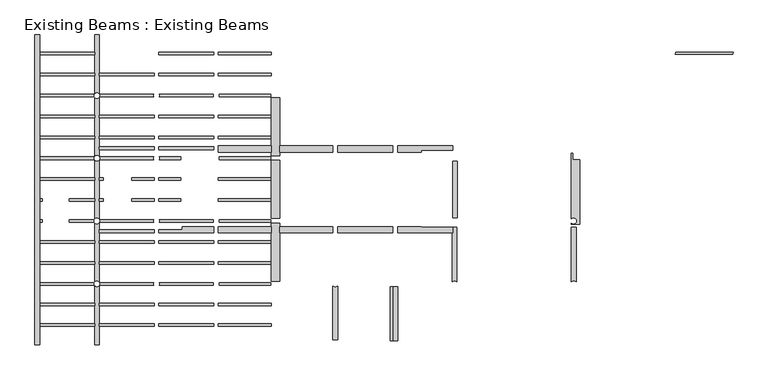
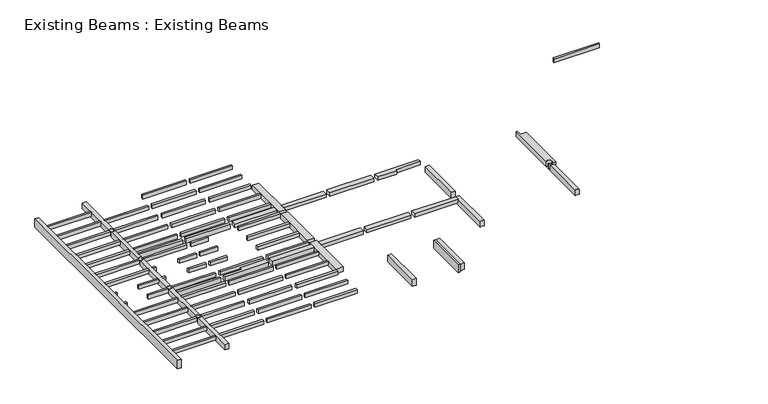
"""IFC4 building model written with IfcOpenShell, lengths in millimetres: beam geometry, Existing Beams : Existing Beams."""

from ifc_helpers import new_model, si_unit, point, frame, frame_2d, origin, place, context, project, spatial, polyline, circle_curve, trimmed, segment, composite_curve, outline, extrude, source, transform, mapped, element, save


def existing_beams_existing_beams_2622cb17(model_context):
    return source(origin(), model_context, "Body", "SweptSolid", [
        extrude(outline(polyline([(-14684.2509089, 98752.5091334), (-14684.2509089, 98142.9091334), (-19757.9009089, 98142.9091334), (-19757.9009089, 98752.5091334), (-14684.2509089, 98752.5091334)])), frame((0.0, 0.0, 3225.8), z_axis=(0.0, 0.0, 1.0), x_axis=(1.0, 0.0, 0.0)), (0.0, 0.0, 1.0), 431.8),
        extrude(outline(polyline([(-8927.2028695, 98752.5091334), (-8927.2028695, 98142.9091334), (-14227.0509089, 98142.9091334), (-14227.0509089, 98752.5091334), (-8927.2028695, 98752.5091334)])), frame((0.0, 0.0, 3225.8), z_axis=(0.0, 0.0, 1.0), x_axis=(1.0, 0.0, 0.0)), (0.0, 0.0, 1.0), 431.8),
        extrude(outline(polyline([(-6190.3528695, 98752.5091334), (-6190.3528695, 98674.6320808), (-3212.2028695, 98674.6320808), (-3212.2028695, 98142.9091334), (-8470.0028695, 98142.9091334), (-8470.0028695, 98752.5091334), (-6190.3528695, 98752.5091334)])), frame((0.0, 0.0, 3225.8), z_axis=(0.0, 0.0, 1.0), x_axis=(1.0, 0.0, 0.0)), (0.0, 0.0, 1.0), 431.8),
        extrude(outline(polyline([(-14684.2509089, 105878.5126019), (-19757.9009089, 105878.5126019), (-19757.9009089, 106488.1126019), (-14684.2509089, 106488.1126019), (-14684.2509089, 105878.5126019)])), frame((0.0, 0.0, 3225.8), z_axis=(0.0, 0.0, 1.0), x_axis=(1.0, 0.0, 0.0)), (0.0, 0.0, 1.0), 431.8),
        extrude(outline(polyline([(-8927.2028695, 105878.5126019), (-14227.0509089, 105878.5126019), (-14227.0509089, 106488.1126019), (-8927.2028695, 106488.1126019), (-8927.2028695, 105878.5126019)])), frame((0.0, 0.0, 3225.8), z_axis=(0.0, 0.0, 1.0), x_axis=(1.0, 0.0, 0.0)), (0.0, 0.0, 1.0), 431.8),
        extrude(outline(polyline([(-6190.3528695, 105878.5126019), (-8470.0028695, 105878.5126019), (-8470.0028695, 106488.1126019), (-3212.2028695, 106488.1126019), (-3212.2028695, 106091.4320808), (-6190.3528695, 106091.4320808), (-6190.3528695, 105878.5126019)])), frame((0.0, 0.0, 3225.8), z_axis=(0.0, 0.0, 1.0), x_axis=(1.0, 0.0, 0.0)), (0.0, 0.0, 1.0), 431.8),
        extrude(outline(polyline([(-20583.4009089, 105878.5126019), (-25657.0509089, 105878.5126019), (-25657.0509089, 106488.1126019), (-20583.4009089, 106488.1126019), (-20583.4009089, 105878.5126019)])), frame((0.0, 0.0, 3225.8), z_axis=(0.0, 0.0, 1.0), x_axis=(1.0, 0.0, 0.0)), (0.0, 0.0, 1.0), 431.8),
        extrude(outline(polyline([(-25657.0509089, 98142.9091334), (-25657.0509089, 98752.5091334), (-20583.4009089, 98752.5091334), (-20583.4009089, 98142.9091334), (-25657.0509089, 98142.9091334)])), frame((0.0, 0.0, 3073.4), z_axis=(0.0, 0.0, 1.0), x_axis=(1.0, 0.0, 0.0)), (0.0, 0.0, 1.0), 584.2),
        extrude(outline(polyline([(-31829.2509089, 106112.1591334), (-37087.0509089, 106112.1591334), (-37087.0509089, 106416.9591334), (-31829.2509089, 106416.9591334), (-31829.2509089, 106112.1591334)])), frame((0.0, 0.0, 3073.4), z_axis=(0.0, 0.0, 1.0), x_axis=(1.0, 0.0, 0.0)), (0.0, 0.0, 1.0), 584.2),
        extrude(outline(polyline([(-26114.2509089, 106112.1591334), (-31372.0509089, 106112.1591334), (-31372.0509089, 106416.9591334), (-26114.2509089, 106416.9591334), (-26114.2509089, 106112.1591334)])), frame((0.0, 0.0, 3073.4), z_axis=(0.0, 0.0, 1.0), x_axis=(1.0, 0.0, 0.0)), (0.0, 0.0, 1.0), 584.2),
        extrude(outline(polyline([(-31829.2509089, 98142.9091334), (-37087.0509089, 98142.9091334), (-37087.0509089, 98447.7091334), (-31829.2509089, 98447.7091334), (-31829.2509089, 98142.9091334)])), frame((0.0, 0.0, 3073.4), z_axis=(0.0, 0.0, 1.0), x_axis=(1.0, 0.0, 0.0)), (0.0, 0.0, 1.0), 584.2),
        extrude(outline(polyline([(-26114.2509089, 98142.9091334), (-31372.0509089, 98142.9091334), (-31372.0509089, 98447.7091334), (-29127.2685042, 98447.7091334), (-29127.2685042, 98752.5091334), (-26114.2509089, 98752.5091334), (-26114.2509089, 98142.9091334)])), frame((0.0, 0.0, 3073.4), z_axis=(0.0, 0.0, 1.0), x_axis=(1.0, 0.0, 0.0)), (0.0, 0.0, 1.0), 584.2),
        extrude(outline(polyline([(-8927.2028695, 92967.6591334), (-8927.2028695, 87819.2820472), (-9187.1357171, 87819.2820472), (-9187.1357171, 92967.6591334), (-8927.2028695, 92967.6591334)])), frame((0.0, 0.0, 2667.0), z_axis=(0.0, 0.0, 1.0), x_axis=(1.0, 0.0, 0.0)), (0.0, 0.0, 1.0), 990.6),
        extrude(outline(polyline([(18154.1603385, 115262.2141363), (18196.1185664, 115465.4141363), (23694.4984264, 115465.4141363), (23652.5401986, 115262.2141363), (18154.1603385, 115262.2141363)])), frame((0.0, 0.0, 3200.4), z_axis=(0.0, 0.0, 1.0), x_axis=(1.0, 0.0, 0.0)), (0.0, 0.0, 1.0), 457.2),
        extrude(outline(composite_curve([segment(polyline([(8175.7490911, 98674.6320808), (8632.9490911, 98674.6320808), (8632.9490911, 93459.0651523)]), True, "CONTINUOUS"), segment(trimmed(circle_curve(frame_2d((8404.3490911, 93257.4589024)), 304.8), [point((8632.9490911, 93459.0651523))], [point((8175.7490911, 93459.0651523))], True, "CARTESIAN"), True, "CONTINUOUS"), segment(polyline([(8175.7490911, 93459.0651523), (8175.7490911, 98674.6320808)]), True, "CONTINUOUS")], self_intersect=False)), frame((0.0, 0.0, 2984.5), z_axis=(0.0, 0.0, 1.0), x_axis=(1.0, 0.0, 0.0)), (0.0, 0.0, 1.0), 673.1),
        extrude(outline(composite_curve([segment(trimmed(circle_curve(frame_2d((8404.3490911, 99292.2591334)), 304.8), [point((8175.7490911, 99090.6528835))], [point((8175.7490911, 99493.8653833))], True, "CARTESIAN"), True, "CONTINUOUS"), segment(polyline([(8175.7490911, 99493.8653833), (8175.7490911, 105786.6320808), (8318.2709203, 105786.6320808), (8318.2709203, 105146.9591334), (8988.3364176, 105146.9591334), (8988.3364176, 98979.4320808), (8175.7490911, 98979.4320808), (8175.7490911, 99090.6528835)]), True, "CONTINUOUS")], self_intersect=False)), frame((0.0, 0.0, 2984.5), z_axis=(0.0, 0.0, 1.0), x_axis=(1.0, 0.0, 0.0)), (0.0, 0.0, 1.0), 673.1),
        extrude(outline(composite_curve([segment(polyline([(-3254.2509089, 98674.6320808), (-2797.0509089, 98674.6320808), (-2797.0509089, 93459.0651523)]), True, "CONTINUOUS"), segment(trimmed(circle_curve(frame_2d((-3025.6509089, 93257.4589024)), 304.8), [point((-2797.0509089, 93459.0651523))], [point((-3254.2509089, 93459.0651523))], True, "CARTESIAN"), True, "CONTINUOUS"), segment(polyline([(-3254.2509089, 93459.0651523), (-3254.2509089, 98674.6320808)]), True, "CONTINUOUS")], self_intersect=False)), frame((0.0, 0.0, 2984.5), z_axis=(0.0, 0.0, 1.0), x_axis=(1.0, 0.0, 0.0)), (0.0, 0.0, 1.0), 673.1),
        extrude(outline(polyline([(-2755.0028695, 105002.4603457), (-2755.0028695, 99597.0591334), (-3212.2028695, 99597.0591334), (-3212.2028695, 105002.4603457), (-2755.0028695, 105002.4603457)])), frame((0.0, 0.0, 2921.0), z_axis=(0.0, 0.0, 1.0), x_axis=(1.0, 0.0, 0.0)), (0.0, 0.0, 1.0), 736.6),
        extrude(outline(polyline([(-8927.2028695, 92967.6591334), (-8470.0028695, 92967.6591334), (-8470.0028695, 87819.2820472), (-8927.2028695, 87819.2820472), (-8927.2028695, 92967.6591334)])), frame((0.0, 0.0, 2832.1), z_axis=(0.0, 0.0, 1.0), x_axis=(1.0, 0.0, 0.0)), (0.0, 0.0, 1.0), 825.5),
        extrude(outline(composite_curve([segment(trimmed(circle_curve(frame_2d((-14455.6509089, 93257.4589024)), 304.8), [point((-14684.2509089, 93055.8526525))], [point((-14227.0509089, 93055.8526525))], True, "CARTESIAN"), True, "CONTINUOUS"), segment(polyline([(-14227.0509089, 93055.8526525), (-14227.0509089, 87879.1643275), (-14684.2509089, 87879.1643275), (-14684.2509089, 93055.8526525)]), True, "CONTINUOUS")], self_intersect=False)), frame((0.0, 0.0, 2819.4), z_axis=(0.0, 0.0, 1.0), x_axis=(1.0, 0.0, 0.0)), (0.0, 0.0, 1.0), 838.2),
        extrude(outline(polyline([(-19757.9009089, 93516.8980105), (-20583.4009089, 93516.8980105), (-20583.4009089, 99083.2664122), (-19757.9009089, 99083.2664122), (-19757.9009089, 93516.8980105)])), frame((0.0, 0.0, 3073.4), z_axis=(0.0, 0.0, 1.0), x_axis=(1.0, 0.0, 0.0)), (0.0, 0.0, 1.0), 584.2),
        extrude(outline(polyline([(-19757.9009089, 99534.8320469), (-20583.4009089, 99534.8320469), (-20583.4009089, 105096.1896885), (-19757.9009089, 105096.1896885), (-19757.9009089, 99534.8320469)])), frame((0.0, 0.0, 3073.4), z_axis=(0.0, 0.0, 1.0), x_axis=(1.0, 0.0, 0.0)), (0.0, 0.0, 1.0), 584.2),
        extrude(outline(polyline([(-19757.9009089, 105547.7553231), (-20583.4009089, 105547.7553231), (-20583.4009089, 111110.3553231), (-19757.9009089, 111110.3553231), (-19757.9009089, 105547.7553231)])), frame((0.0, 0.0, 3073.4), z_axis=(0.0, 0.0, 1.0), x_axis=(1.0, 0.0, 0.0)), (0.0, 0.0, 1.0), 584.2),
        extrude(outline(polyline([(-42802.0509089, 117135.7591334), (-42802.0509089, 87424.7590237), (-43259.2509089, 87424.7590237), (-43259.2509089, 117135.7591334), (-42802.0509089, 117135.7591334)])), frame((0.0, 0.0, 2590.8), z_axis=(0.0, 0.0, 1.0), x_axis=(1.0, 0.0, 0.0)), (0.0, 0.0, 1.0), 1066.8),
        extrude(outline(polyline([(-37544.2509089, 115211.4141363), (-42802.0509089, 115211.4141363), (-42802.0509089, 115465.4141363), (-37544.2509089, 115465.4141363), (-37544.2509089, 115211.4141363)])), frame((0.0, 0.0, 3200.4), z_axis=(0.0, 0.0, 1.0), x_axis=(1.0, 0.0, 0.0)), (0.0, 0.0, 1.0), 457.2),
        extrude(outline(polyline([(-37544.2509089, 113204.8141363), (-42802.0509089, 113204.8141363), (-42802.0509089, 113458.8141363), (-37544.2509089, 113458.8141363), (-37544.2509089, 113204.8141363)])), frame((0.0, 0.0, 3200.4), z_axis=(0.0, 0.0, 1.0), x_axis=(1.0, 0.0, 0.0)), (0.0, 0.0, 1.0), 457.2),
        extrude(outline(polyline([(-37544.2509089, 109191.9091334), (-42802.0509089, 109191.9091334), (-42802.0509089, 109445.9091334), (-37544.2509089, 109445.9091334), (-37544.2509089, 109191.9091334)])), frame((0.0, 0.0, 3200.4), z_axis=(0.0, 0.0, 1.0), x_axis=(1.0, 0.0, 0.0)), (0.0, 0.0, 1.0), 457.2),
        extrude(outline(polyline([(-37544.2509089, 107185.3091334), (-42802.0509089, 107185.3091334), (-42802.0509089, 107439.3091334), (-37544.2509089, 107439.3091334), (-37544.2509089, 107185.3091334)])), frame((0.0, 0.0, 3200.4), z_axis=(0.0, 0.0, 1.0), x_axis=(1.0, 0.0, 0.0)), (0.0, 0.0, 1.0), 457.2),
        extrude(outline(polyline([(-37544.2509089, 103178.4591334), (-42802.0509089, 103178.4591334), (-42802.0509089, 103432.4591334), (-37544.2509089, 103432.4591334), (-37544.2509089, 103178.4591334)])), frame((0.0, 0.0, 3200.4), z_axis=(0.0, 0.0, 1.0), x_axis=(1.0, 0.0, 0.0)), (0.0, 0.0, 1.0), 457.2),
        extrude(outline(polyline([(-42540.2585473, 101171.8591334), (-42802.0509089, 101171.8591334), (-42802.0509089, 101425.8591334), (-42540.2585473, 101425.8591334), (-42540.2585473, 101171.8591334)])), frame((0.0, 0.0, 3200.4), z_axis=(0.0, 0.0, 1.0), x_axis=(1.0, 0.0, 0.0)), (0.0, 0.0, 1.0), 457.2),
        extrude(outline(polyline([(-39955.8085473, 101425.8591334), (-37544.2509089, 101425.8591334), (-37544.2509089, 101171.8591334), (-39955.8085473, 101171.8591334), (-39955.8085473, 101425.8591334)])), frame((0.0, 0.0, 3200.4), z_axis=(0.0, 0.0, 1.0), x_axis=(1.0, 0.0, 0.0)), (0.0, 0.0, 1.0), 457.2),
        extrude(outline(polyline([(-37544.2509089, 97148.2914396), (-42802.0509089, 97148.2914396), (-42802.0509089, 97402.2914396), (-37544.2509089, 97402.2914396), (-37544.2509089, 97148.2914396)])), frame((0.0, 0.0, 3200.4), z_axis=(0.0, 0.0, 1.0), x_axis=(1.0, 0.0, 0.0)), (0.0, 0.0, 1.0), 457.2),
        extrude(outline(composite_curve([segment(polyline([(-37598.2080713, 111198.2141363), (-42802.0509089, 111198.2141363), (-42802.0509089, 111452.2141363), (-37586.5511673, 111452.2141363)]), True, "CONTINUOUS"), segment(trimmed(circle_curve(frame_2d((-37315.6509089, 111312.5141363)), 304.8), [point((-37586.5511673, 111452.2141363))], [point((-37598.2080713, 111198.2141363))], True, "CARTESIAN"), True, "CONTINUOUS")], self_intersect=False)), frame((0.0, 0.0, 3200.4), z_axis=(0.0, 0.0, 1.0), x_axis=(1.0, 0.0, 0.0)), (0.0, 0.0, 1.0), 457.2),
        extrude(outline(composite_curve([segment(polyline([(-37593.8164309, 105178.7091334), (-42802.0509089, 105178.7091334), (-42802.0509089, 105432.7091334), (-37591.622959, 105432.7091334)]), True, "CONTINUOUS"), segment(trimmed(circle_curve(frame_2d((-37315.6509089, 105303.3164461)), 304.8), [point((-37591.622959, 105432.7091334))], [point((-37593.8164309, 105178.7091334))], True, "CARTESIAN"), True, "CONTINUOUS")], self_intersect=False)), frame((0.0, 0.0, 3200.4), z_axis=(0.0, 0.0, 1.0), x_axis=(1.0, 0.0, 0.0)), (0.0, 0.0, 1.0), 457.2),
        extrude(outline(polyline([(-42540.2585473, 99165.2591334), (-42802.0509089, 99165.2591334), (-42802.0509089, 99419.2591334), (-42540.2585473, 99419.2591334), (-42540.2585473, 99165.2591334)])), frame((0.0, 0.0, 3200.4), z_axis=(0.0, 0.0, 1.0), x_axis=(1.0, 0.0, 0.0)), (0.0, 0.0, 1.0), 457.2),
        extrude(outline(composite_curve([segment(polyline([(-39955.8085473, 99419.2591334), (-37592.7321966, 99419.2591334)]), True, "CONTINUOUS"), segment(trimmed(circle_curve(frame_2d((-37315.6509089, 99292.2591334)), 304.8), [point((-37592.7321966, 99419.2591334))], [point((-37592.7321966, 99165.2591334))], True, "CARTESIAN"), True, "CONTINUOUS"), segment(polyline([(-37592.7321966, 99165.2591334), (-39955.8085473, 99165.2591334), (-39955.8085473, 99419.2591334)]), True, "CONTINUOUS")], self_intersect=False)), frame((0.0, 0.0, 3200.4), z_axis=(0.0, 0.0, 1.0), x_axis=(1.0, 0.0, 0.0)), (0.0, 0.0, 1.0), 457.2),
        extrude(outline(polyline([(-37544.2509089, 89198.0914396), (-42802.0509089, 89198.0914396), (-42802.0509089, 89452.0914396), (-37544.2509089, 89452.0914396), (-37544.2509089, 89198.0914396)])), frame((0.0, 0.0, 3200.4), z_axis=(0.0, 0.0, 1.0), x_axis=(1.0, 0.0, 0.0)), (0.0, 0.0, 1.0), 457.2),
        extrude(outline(polyline([(-37544.2509089, 91166.5914396), (-42802.0509089, 91166.5914396), (-42802.0509089, 91420.5914396), (-37544.2509089, 91420.5914396), (-37544.2509089, 91166.5914396)])), frame((0.0, 0.0, 3200.4), z_axis=(0.0, 0.0, 1.0), x_axis=(1.0, 0.0, 0.0)), (0.0, 0.0, 1.0), 457.2),
        extrude(outline(polyline([(-37544.2509089, 95141.6914396), (-42802.0509089, 95141.6914396), (-42802.0509089, 95395.6914396), (-37544.2509089, 95395.6914396), (-37544.2509089, 95141.6914396)])), frame((0.0, 0.0, 3200.4), z_axis=(0.0, 0.0, 1.0), x_axis=(1.0, 0.0, 0.0)), (0.0, 0.0, 1.0), 457.2),
        extrude(outline(composite_curve([segment(polyline([(-37592.7321966, 93135.0914396), (-42802.0509089, 93135.0914396), (-42802.0509089, 93389.0914396), (-37592.7321966, 93389.0914396)]), True, "CONTINUOUS"), segment(trimmed(circle_curve(frame_2d((-37315.6509089, 93262.0914396)), 304.8), [point((-37592.7321966, 93389.0914396))], [point((-37592.7321966, 93135.0914396))], True, "CARTESIAN"), True, "CONTINUOUS")], self_intersect=False)), frame((0.0, 0.0, 3200.4), z_axis=(0.0, 0.0, 1.0), x_axis=(1.0, 0.0, 0.0)), (0.0, 0.0, 1.0), 457.2),
        extrude(outline(polyline([(-37087.0509089, 113204.8141363), (-37087.0509089, 113458.8141363), (-31829.2509089, 113458.8141363), (-31829.2509089, 113204.8141363), (-37087.0509089, 113204.8141363)])), frame((0.0, 0.0, 3200.4), z_axis=(0.0, 0.0, 1.0), x_axis=(1.0, 0.0, 0.0)), (0.0, 0.0, 1.0), 457.2),
        extrude(outline(polyline([(-37087.0509089, 109191.9091334), (-37087.0509089, 109445.9091334), (-31829.2509089, 109445.9091334), (-31829.2509089, 109191.9091334), (-37087.0509089, 109191.9091334)])), frame((0.0, 0.0, 3200.4), z_axis=(0.0, 0.0, 1.0), x_axis=(1.0, 0.0, 0.0)), (0.0, 0.0, 1.0), 457.2),
        extrude(outline(polyline([(-37087.0509089, 107185.3091334), (-37087.0509089, 107439.3091334), (-31829.2509089, 107439.3091334), (-31829.2509089, 107185.3091334), (-37087.0509089, 107185.3091334)])), frame((0.0, 0.0, 3200.4), z_axis=(0.0, 0.0, 1.0), x_axis=(1.0, 0.0, 0.0)), (0.0, 0.0, 1.0), 457.2),
        extrude(outline(polyline([(-33958.2335473, 103178.4591334), (-33958.2335473, 103432.4591334), (-31829.2509089, 103432.4591334), (-31829.2509089, 103178.4591334), (-33958.2335473, 103178.4591334)])), frame((0.0, 0.0, 3200.4), z_axis=(0.0, 0.0, 1.0), x_axis=(1.0, 0.0, 0.0)), (0.0, 0.0, 1.0), 457.2),
        extrude(outline(polyline([(-36717.3085473, 103432.4591334), (-36717.3085473, 103178.4591334), (-37087.0509089, 103178.4591334), (-37087.0509089, 103432.4591334), (-36717.3085473, 103432.4591334)])), frame((0.0, 0.0, 3200.4), z_axis=(0.0, 0.0, 1.0), x_axis=(1.0, 0.0, 0.0)), (0.0, 0.0, 1.0), 457.2),
        extrude(outline(polyline([(-33958.2335473, 101171.8591334), (-33958.2335473, 101425.8591334), (-31829.2509089, 101425.8591334), (-31829.2509089, 101171.8591334), (-33958.2335473, 101171.8591334)])), frame((0.0, 0.0, 3200.4), z_axis=(0.0, 0.0, 1.0), x_axis=(1.0, 0.0, 0.0)), (0.0, 0.0, 1.0), 457.2),
        extrude(outline(polyline([(-36717.3085473, 101425.8591334), (-36717.3085473, 101171.8591334), (-37087.0509089, 101171.8591334), (-37087.0509089, 101425.8591334), (-36717.3085473, 101425.8591334)])), frame((0.0, 0.0, 3200.4), z_axis=(0.0, 0.0, 1.0), x_axis=(1.0, 0.0, 0.0)), (0.0, 0.0, 1.0), 457.2),
        extrude(outline(polyline([(-37087.0509089, 97148.2914396), (-37087.0509089, 97402.2914396), (-31829.2509089, 97402.2914396), (-31829.2509089, 97148.2914396), (-37087.0509089, 97148.2914396)])), frame((0.0, 0.0, 3200.4), z_axis=(0.0, 0.0, 1.0), x_axis=(1.0, 0.0, 0.0)), (0.0, 0.0, 1.0), 457.2),
        extrude(outline(composite_curve([segment(trimmed(circle_curve(frame_2d((-37315.6509089, 111312.5141363)), 304.8), [point((-37033.0937465, 111198.2141363))], [point((-37044.7506505, 111452.2141363))], True, "CARTESIAN"), True, "CONTINUOUS"), segment(polyline([(-37044.7506505, 111452.2141363), (-31877.7321966, 111452.2141363)]), True, "CONTINUOUS"), segment(trimmed(circle_curve(frame_2d((-31600.6509089, 111325.2141363)), 304.8), [point((-31877.7321966, 111452.2141363))], [point((-31877.7321966, 111198.2141363))], True, "CARTESIAN"), True, "CONTINUOUS"), segment(polyline([(-31877.7321966, 111198.2141363), (-37033.0937465, 111198.2141363)]), True, "CONTINUOUS")], self_intersect=False)), frame((0.0, 0.0, 3200.4), z_axis=(0.0, 0.0, 1.0), x_axis=(1.0, 0.0, 0.0)), (0.0, 0.0, 1.0), 457.2),
        extrude(outline(composite_curve([segment(trimmed(circle_curve(frame_2d((-37315.6509089, 105303.3164461)), 304.8), [point((-37037.4853869, 105178.7091334))], [point((-37039.6788588, 105432.7091334))], True, "CARTESIAN"), True, "CONTINUOUS"), segment(polyline([(-37039.6788588, 105432.7091334), (-31876.622959, 105432.7091334)]), True, "CONTINUOUS"), segment(trimmed(circle_curve(frame_2d((-31600.6509089, 105303.3164461)), 304.8), [point((-31876.622959, 105432.7091334))], [point((-31878.8164309, 105178.7091334))], True, "CARTESIAN"), True, "CONTINUOUS"), segment(polyline([(-31878.8164309, 105178.7091334), (-37037.4853869, 105178.7091334)]), True, "CONTINUOUS")], self_intersect=False)), frame((0.0, 0.0, 3200.4), z_axis=(0.0, 0.0, 1.0), x_axis=(1.0, 0.0, 0.0)), (0.0, 0.0, 1.0), 457.2),
        extrude(outline(composite_curve([segment(trimmed(circle_curve(frame_2d((-37315.6509089, 99292.2591334)), 304.8), [point((-37038.5696212, 99165.2591334))], [point((-37038.5696212, 99419.2591334))], True, "CARTESIAN"), True, "CONTINUOUS"), segment(polyline([(-37038.5696212, 99419.2591334), (-31877.7321966, 99419.2591334)]), True, "CONTINUOUS"), segment(trimmed(circle_curve(frame_2d((-31600.6509089, 99292.2591334)), 304.8), [point((-31877.7321966, 99419.2591334))], [point((-31877.7321966, 99165.2591334))], True, "CARTESIAN"), True, "CONTINUOUS"), segment(polyline([(-31877.7321966, 99165.2591334), (-37038.5696212, 99165.2591334)]), True, "CONTINUOUS")], self_intersect=False)), frame((0.0, 0.0, 3200.4), z_axis=(0.0, 0.0, 1.0), x_axis=(1.0, 0.0, 0.0)), (0.0, 0.0, 1.0), 457.2),
        extrude(outline(polyline([(-37087.0509089, 89198.0914396), (-37087.0509089, 89452.0914396), (-31829.2509089, 89452.0914396), (-31829.2509089, 89198.0914396), (-37087.0509089, 89198.0914396)])), frame((0.0, 0.0, 3200.4), z_axis=(0.0, 0.0, 1.0), x_axis=(1.0, 0.0, 0.0)), (0.0, 0.0, 1.0), 457.2),
        extrude(outline(polyline([(-37087.0509089, 91166.5914396), (-37087.0509089, 91420.5914396), (-31829.2509089, 91420.5914396), (-31829.2509089, 91166.5914396), (-37087.0509089, 91166.5914396)])), frame((0.0, 0.0, 3200.4), z_axis=(0.0, 0.0, 1.0), x_axis=(1.0, 0.0, 0.0)), (0.0, 0.0, 1.0), 457.2),
        extrude(outline(polyline([(-37087.0509089, 95141.6914396), (-37087.0509089, 95395.6914396), (-31829.2509089, 95395.6914396), (-31829.2509089, 95141.6914396), (-37087.0509089, 95141.6914396)])), frame((0.0, 0.0, 3200.4), z_axis=(0.0, 0.0, 1.0), x_axis=(1.0, 0.0, 0.0)), (0.0, 0.0, 1.0), 457.2),
        extrude(outline(composite_curve([segment(trimmed(circle_curve(frame_2d((-37315.6509089, 93262.0914396)), 304.8), [point((-37038.5696212, 93135.0914396))], [point((-37038.5696212, 93389.0914396))], True, "CARTESIAN"), True, "CONTINUOUS"), segment(polyline([(-37038.5696212, 93389.0914396), (-31877.7321966, 93389.0914396)]), True, "CONTINUOUS"), segment(trimmed(circle_curve(frame_2d((-31600.6509089, 93262.0914396)), 304.8), [point((-31877.7321966, 93389.0914396))], [point((-31877.7321966, 93135.0914396))], True, "CARTESIAN"), True, "CONTINUOUS"), segment(polyline([(-31877.7321966, 93135.0914396), (-37038.5696212, 93135.0914396)]), True, "CONTINUOUS")], self_intersect=False)), frame((0.0, 0.0, 3200.4), z_axis=(0.0, 0.0, 1.0), x_axis=(1.0, 0.0, 0.0)), (0.0, 0.0, 1.0), 457.2),
        extrude(outline(polyline([(-31372.0509089, 115211.4141363), (-31372.0509089, 115465.4141363), (-26114.2509089, 115465.4141363), (-26114.2509089, 115211.4141363), (-31372.0509089, 115211.4141363)])), frame((0.0, 0.0, 3200.4), z_axis=(0.0, 0.0, 1.0), x_axis=(1.0, 0.0, 0.0)), (0.0, 0.0, 1.0), 457.2),
        extrude(outline(polyline([(-31372.0509089, 113204.8141363), (-31372.0509089, 113458.8141363), (-26114.2509089, 113458.8141363), (-26114.2509089, 113204.8141363), (-31372.0509089, 113204.8141363)])), frame((0.0, 0.0, 3200.4), z_axis=(0.0, 0.0, 1.0), x_axis=(1.0, 0.0, 0.0)), (0.0, 0.0, 1.0), 457.2),
        extrude(outline(polyline([(-31372.0509089, 109191.9091334), (-31372.0509089, 109445.9091334), (-26114.2509089, 109445.9091334), (-26114.2509089, 109191.9091334), (-31372.0509089, 109191.9091334)])), frame((0.0, 0.0, 3200.4), z_axis=(0.0, 0.0, 1.0), x_axis=(1.0, 0.0, 0.0)), (0.0, 0.0, 1.0), 457.2),
        extrude(outline(polyline([(-31372.0509089, 107185.3091334), (-31372.0509089, 107439.3091334), (-26114.2509089, 107439.3091334), (-26114.2509089, 107185.3091334), (-31372.0509089, 107185.3091334)])), frame((0.0, 0.0, 3200.4), z_axis=(0.0, 0.0, 1.0), x_axis=(1.0, 0.0, 0.0)), (0.0, 0.0, 1.0), 457.2),
        extrude(outline(polyline([(-31372.0509089, 103178.4591334), (-31372.0509089, 103432.4591334), (-29279.6685042, 103432.4591334), (-29279.6685042, 103178.4591334), (-31372.0509089, 103178.4591334)])), frame((0.0, 0.0, 3200.4), z_axis=(0.0, 0.0, 1.0), x_axis=(1.0, 0.0, 0.0)), (0.0, 0.0, 1.0), 457.2),
        extrude(outline(polyline([(-31372.0509089, 101171.8591334), (-31372.0509089, 101425.8591334), (-29279.6685042, 101425.8591334), (-29279.6685042, 101171.8591334), (-31372.0509089, 101171.8591334)])), frame((0.0, 0.0, 3200.4), z_axis=(0.0, 0.0, 1.0), x_axis=(1.0, 0.0, 0.0)), (0.0, 0.0, 1.0), 457.2),
        extrude(outline(polyline([(-31372.0509089, 97148.2914396), (-31372.0509089, 97402.2914396), (-26114.2509089, 97402.2914396), (-26114.2509089, 97148.2914396), (-31372.0509089, 97148.2914396)])), frame((0.0, 0.0, 3200.4), z_axis=(0.0, 0.0, 1.0), x_axis=(1.0, 0.0, 0.0)), (0.0, 0.0, 1.0), 457.2),
        extrude(outline(composite_curve([segment(trimmed(circle_curve(frame_2d((-31600.6509089, 111325.2141363)), 304.8), [point((-31323.5696212, 111198.2141363))], [point((-31323.5696212, 111452.2141363))], True, "CARTESIAN"), True, "CONTINUOUS"), segment(polyline([(-31323.5696212, 111452.2141363), (-26153.1497919, 111452.2141363)]), True, "CONTINUOUS"), segment(trimmed(circle_curve(frame_2d((-25876.0685042, 111325.2141363)), 304.8), [point((-26153.1497919, 111452.2141363))], [point((-26153.1497919, 111198.2141363))], True, "CARTESIAN"), True, "CONTINUOUS"), segment(polyline([(-26153.1497919, 111198.2141363), (-31323.5696212, 111198.2141363)]), True, "CONTINUOUS")], self_intersect=False)), frame((0.0, 0.0, 3200.4), z_axis=(0.0, 0.0, 1.0), x_axis=(1.0, 0.0, 0.0)), (0.0, 0.0, 1.0), 457.2),
        extrude(outline(composite_curve([segment(trimmed(circle_curve(frame_2d((-31600.6509089, 105303.3164461)), 304.8), [point((-31322.4853869, 105178.7091334))], [point((-31324.6788588, 105432.7091334))], True, "CARTESIAN"), True, "CONTINUOUS"), segment(polyline([(-31324.6788588, 105432.7091334), (-29279.6685042, 105432.7091334), (-29279.6685042, 105178.7091334), (-31322.4853869, 105178.7091334)]), True, "CONTINUOUS")], self_intersect=False)), frame((0.0, 0.0, 3200.4), z_axis=(0.0, 0.0, 1.0), x_axis=(1.0, 0.0, 0.0)), (0.0, 0.0, 1.0), 457.2),
        extrude(outline(composite_curve([segment(trimmed(circle_curve(frame_2d((-31600.6509089, 99292.2591334)), 304.8), [point((-31323.5696212, 99165.2591334))], [point((-31323.5696212, 99419.2591334))], True, "CARTESIAN"), True, "CONTINUOUS"), segment(polyline([(-31323.5696212, 99419.2591334), (-26153.1497919, 99419.2591334)]), True, "CONTINUOUS"), segment(trimmed(circle_curve(frame_2d((-25876.0685042, 99292.2591334)), 304.8), [point((-26153.1497919, 99419.2591334))], [point((-26153.1497919, 99165.2591334))], True, "CARTESIAN"), True, "CONTINUOUS"), segment(polyline([(-26153.1497919, 99165.2591334), (-31323.5696212, 99165.2591334)]), True, "CONTINUOUS")], self_intersect=False)), frame((0.0, 0.0, 3200.4), z_axis=(0.0, 0.0, 1.0), x_axis=(1.0, 0.0, 0.0)), (0.0, 0.0, 1.0), 457.2),
        extrude(outline(polyline([(-31372.0509089, 89198.0914396), (-31372.0509089, 89452.0914396), (-26114.2509089, 89452.0914396), (-26114.2509089, 89198.0914396), (-31372.0509089, 89198.0914396)])), frame((0.0, 0.0, 3200.4), z_axis=(0.0, 0.0, 1.0), x_axis=(1.0, 0.0, 0.0)), (0.0, 0.0, 1.0), 457.2),
        extrude(outline(polyline([(-31372.0509089, 91166.5914396), (-31372.0509089, 91420.5914396), (-26114.2509089, 91420.5914396), (-26114.2509089, 91166.5914396), (-31372.0509089, 91166.5914396)])), frame((0.0, 0.0, 3200.4), z_axis=(0.0, 0.0, 1.0), x_axis=(1.0, 0.0, 0.0)), (0.0, 0.0, 1.0), 457.2),
        extrude(outline(polyline([(-31372.0509089, 95141.6914396), (-31372.0509089, 95395.6914396), (-26114.2509089, 95395.6914396), (-26114.2509089, 95141.6914396), (-31372.0509089, 95141.6914396)])), frame((0.0, 0.0, 3200.4), z_axis=(0.0, 0.0, 1.0), x_axis=(1.0, 0.0, 0.0)), (0.0, 0.0, 1.0), 457.2),
        extrude(outline(composite_curve([segment(trimmed(circle_curve(frame_2d((-31600.6509089, 93262.0914396)), 304.8), [point((-31323.5696212, 93135.0914396))], [point((-31323.5696212, 93389.0914396))], True, "CARTESIAN"), True, "CONTINUOUS"), segment(polyline([(-31323.5696212, 93389.0914396), (-26150.9792445, 93389.0914396)]), True, "CONTINUOUS"), segment(trimmed(circle_curve(frame_2d((-25876.0685042, 93257.4589024)), 304.8), [point((-26150.9792445, 93389.0914396))], [point((-26155.2266028, 93135.0914396))], True, "CARTESIAN"), True, "CONTINUOUS"), segment(polyline([(-26155.2266028, 93135.0914396), (-31323.5696212, 93135.0914396)]), True, "CONTINUOUS")], self_intersect=False)), frame((0.0, 0.0, 3200.4), z_axis=(0.0, 0.0, 1.0), x_axis=(1.0, 0.0, 0.0)), (0.0, 0.0, 1.0), 457.2),
        extrude(outline(polyline([(-25657.0509089, 115211.4141363), (-25657.0509089, 115465.4141363), (-20583.4009089, 115465.4141363), (-20583.4009089, 115211.4141363), (-25657.0509089, 115211.4141363)])), frame((0.0, 0.0, 3200.4), z_axis=(0.0, 0.0, 1.0), x_axis=(1.0, 0.0, 0.0)), (0.0, 0.0, 1.0), 457.2),
        extrude(outline(polyline([(-25657.0509089, 113204.8141363), (-25657.0509089, 113458.8141363), (-20583.4009089, 113458.8141363), (-20583.4009089, 113204.8141363), (-25657.0509089, 113204.8141363)])), frame((0.0, 0.0, 3200.4), z_axis=(0.0, 0.0, 1.0), x_axis=(1.0, 0.0, 0.0)), (0.0, 0.0, 1.0), 457.2),
        extrude(outline(polyline([(-25657.0509089, 109191.9091334), (-25657.0509089, 109445.9091334), (-20583.4009089, 109445.9091334), (-20583.4009089, 109191.9091334), (-25657.0509089, 109191.9091334)])), frame((0.0, 0.0, 3200.4), z_axis=(0.0, 0.0, 1.0), x_axis=(1.0, 0.0, 0.0)), (0.0, 0.0, 1.0), 457.2),
        extrude(outline(polyline([(-25657.0509089, 107185.3091334), (-25657.0509089, 107439.3091334), (-20583.4009089, 107439.3091334), (-20583.4009089, 107185.3091334), (-25657.0509089, 107185.3091334)])), frame((0.0, 0.0, 3200.4), z_axis=(0.0, 0.0, 1.0), x_axis=(1.0, 0.0, 0.0)), (0.0, 0.0, 1.0), 457.2),
        extrude(outline(polyline([(-25657.0509089, 103178.4591334), (-25657.0509089, 103432.4591334), (-20583.4009089, 103432.4591334), (-20583.4009089, 103178.4591334), (-25657.0509089, 103178.4591334)])), frame((0.0, 0.0, 3200.4), z_axis=(0.0, 0.0, 1.0), x_axis=(1.0, 0.0, 0.0)), (0.0, 0.0, 1.0), 457.2),
        extrude(outline(polyline([(-25657.0509089, 101171.8591334), (-25657.0509089, 101425.8591334), (-20583.4009089, 101425.8591334), (-20583.4009089, 101171.8591334), (-25657.0509089, 101171.8591334)])), frame((0.0, 0.0, 3200.4), z_axis=(0.0, 0.0, 1.0), x_axis=(1.0, 0.0, 0.0)), (0.0, 0.0, 1.0), 457.2),
        extrude(outline(polyline([(-25657.0509089, 97148.2914396), (-25657.0509089, 97402.2914396), (-20583.4009089, 97402.2914396), (-20583.4009089, 97148.2914396), (-25657.0509089, 97148.2914396)])), frame((0.0, 0.0, 3200.4), z_axis=(0.0, 0.0, 1.0), x_axis=(1.0, 0.0, 0.0)), (0.0, 0.0, 1.0), 457.2),
        extrude(outline(composite_curve([segment(trimmed(circle_curve(frame_2d((-25876.0685042, 111325.2141363)), 304.8), [point((-25598.9872164, 111198.2141363))], [point((-25598.9872164, 111452.2141363))], True, "CARTESIAN"), True, "CONTINUOUS"), segment(polyline([(-25598.9872164, 111452.2141363), (-20662.7185042, 111452.2141363), (-20662.7185042, 111198.2141363), (-25598.9872164, 111198.2141363)]), True, "CONTINUOUS")], self_intersect=False)), frame((0.0, 0.0, 3200.4), z_axis=(0.0, 0.0, 1.0), x_axis=(1.0, 0.0, 0.0)), (0.0, 0.0, 1.0), 457.2),
        extrude(outline(composite_curve([segment(trimmed(circle_curve(frame_2d((-25876.0685042, 105303.3164461)), 304.8), [point((-25597.9029822, 105178.7091334))], [point((-25600.096454, 105432.7091334))], True, "CARTESIAN"), True, "CONTINUOUS"), segment(polyline([(-25600.096454, 105432.7091334), (-20621.0856868, 105432.7091334), (-20621.0856868, 105178.7091334), (-25597.9029822, 105178.7091334)]), True, "CONTINUOUS")], self_intersect=False)), frame((0.0, 0.0, 3200.4), z_axis=(0.0, 0.0, 1.0), x_axis=(1.0, 0.0, 0.0)), (0.0, 0.0, 1.0), 457.2),
        extrude(outline(composite_curve([segment(trimmed(circle_curve(frame_2d((-25876.0685042, 99292.2591334)), 304.8), [point((-25598.9872164, 99165.2591334))], [point((-25598.9872164, 99419.2591334))], True, "CARTESIAN"), True, "CONTINUOUS"), segment(polyline([(-25598.9872164, 99419.2591334), (-20662.7185042, 99419.2591334), (-20662.7185042, 99165.2591334), (-25598.9872164, 99165.2591334)]), True, "CONTINUOUS")], self_intersect=False)), frame((0.0, 0.0, 3200.4), z_axis=(0.0, 0.0, 1.0), x_axis=(1.0, 0.0, 0.0)), (0.0, 0.0, 1.0), 457.2),
        extrude(outline(polyline([(-25657.0509089, 89198.0914396), (-25657.0509089, 89452.0914396), (-20583.4009089, 89452.0914396), (-20583.4009089, 89198.0914396), (-25657.0509089, 89198.0914396)])), frame((0.0, 0.0, 3200.4), z_axis=(0.0, 0.0, 1.0), x_axis=(1.0, 0.0, 0.0)), (0.0, 0.0, 1.0), 457.2),
        extrude(outline(polyline([(-25657.0509089, 91166.5914396), (-25657.0509089, 91420.5914396), (-20583.4009089, 91420.5914396), (-20583.4009089, 91166.5914396), (-25657.0509089, 91166.5914396)])), frame((0.0, 0.0, 3200.4), z_axis=(0.0, 0.0, 1.0), x_axis=(1.0, 0.0, 0.0)), (0.0, 0.0, 1.0), 457.2),
        extrude(outline(polyline([(-25657.0509089, 95141.6914396), (-25657.0509089, 95395.6914396), (-20583.4009089, 95395.6914396), (-20583.4009089, 95141.6914396), (-25657.0509089, 95141.6914396)])), frame((0.0, 0.0, 3200.4), z_axis=(0.0, 0.0, 1.0), x_axis=(1.0, 0.0, 0.0)), (0.0, 0.0, 1.0), 457.2),
        extrude(outline(composite_curve([segment(trimmed(circle_curve(frame_2d((-25876.0685042, 93257.4589024)), 304.8), [point((-25596.9104055, 93135.0914396))], [point((-25601.1577638, 93389.0914396))], True, "CARTESIAN"), True, "CONTINUOUS"), segment(polyline([(-25601.1577638, 93389.0914396), (-20662.7185042, 93389.0914396), (-20662.7185042, 93135.0914396), (-25596.9104055, 93135.0914396)]), True, "CONTINUOUS")], self_intersect=False)), frame((0.0, 0.0, 3200.4), z_axis=(0.0, 0.0, 1.0), x_axis=(1.0, 0.0, 0.0)), (0.0, 0.0, 1.0), 457.2),
        extrude(outline(composite_curve([segment(polyline([(-37087.0509089, 117135.7591334), (-37087.0509089, 111514.1203862)]), True, "CONTINUOUS"), segment(trimmed(circle_curve(frame_2d((-37315.6509089, 111312.5141363)), 304.8), [point((-37087.0509089, 111514.1203862))], [point((-37544.2509089, 111514.1203862))], True, "CARTESIAN"), True, "CONTINUOUS"), segment(polyline([(-37544.2509089, 111514.1203862), (-37544.2509089, 117135.7591334), (-37087.0509089, 117135.7591334)]), True, "CONTINUOUS")], self_intersect=False)), frame((0.0, 0.0, 2984.5), z_axis=(0.0, 0.0, 1.0), x_axis=(1.0, 0.0, 0.0)), (0.0, 0.0, 1.0), 673.1),
        extrude(outline(composite_curve([segment(trimmed(circle_curve(frame_2d((-37315.6509089, 93262.0914396)), 304.8), [point((-37544.2509089, 93060.4851897))], [point((-37087.0509089, 93060.4851897))], True, "CARTESIAN"), True, "CONTINUOUS"), segment(polyline([(-37087.0509089, 93060.4851897), (-37087.0509089, 87424.7590237), (-37544.2509089, 87424.7590237), (-37544.2509089, 93060.4851897)]), True, "CONTINUOUS")], self_intersect=False)), frame((0.0, 0.0, 2984.5), z_axis=(0.0, 0.0, 1.0), x_axis=(1.0, 0.0, 0.0)), (0.0, 0.0, 1.0), 673.1),
        extrude(outline(composite_curve([segment(polyline([(-37544.2509089, 105504.922696), (-37544.2509089, 111110.9078864)]), True, "CONTINUOUS"), segment(trimmed(circle_curve(frame_2d((-37315.6509089, 111312.5141363)), 304.8), [point((-37544.2509089, 111110.9078864))], [point((-37087.0509089, 111110.9078864))], True, "CARTESIAN"), True, "CONTINUOUS"), segment(polyline([(-37087.0509089, 111110.9078864), (-37087.0509089, 105504.922696)]), True, "CONTINUOUS"), segment(trimmed(circle_curve(frame_2d((-37315.6509089, 105303.3164461)), 304.8), [point((-37087.0509089, 105504.922696))], [point((-37544.2509089, 105504.922696))], True, "CARTESIAN"), True, "CONTINUOUS")], self_intersect=False)), frame((0.0, 0.0, 2984.5), z_axis=(0.0, 0.0, 1.0), x_axis=(1.0, 0.0, 0.0)), (0.0, 0.0, 1.0), 673.1),
        extrude(outline(composite_curve([segment(polyline([(-37544.2509089, 99493.8653833), (-37544.2509089, 105101.7101962)]), True, "CONTINUOUS"), segment(trimmed(circle_curve(frame_2d((-37315.6509089, 105303.3164461)), 304.8), [point((-37544.2509089, 105101.7101962))], [point((-37087.0509089, 105101.7101962))], True, "CARTESIAN"), True, "CONTINUOUS"), segment(polyline([(-37087.0509089, 105101.7101962), (-37087.0509089, 99493.8653833)]), True, "CONTINUOUS"), segment(trimmed(circle_curve(frame_2d((-37315.6509089, 99292.2591334)), 304.8), [point((-37087.0509089, 99493.8653833))], [point((-37544.2509089, 99493.8653833))], True, "CARTESIAN"), True, "CONTINUOUS")], self_intersect=False)), frame((0.0, 0.0, 2984.5), z_axis=(0.0, 0.0, 1.0), x_axis=(1.0, 0.0, 0.0)), (0.0, 0.0, 1.0), 673.1),
        extrude(outline(composite_curve([segment(polyline([(-37544.2509089, 93463.6976895), (-37544.2509089, 99090.6528835)]), True, "CONTINUOUS"), segment(trimmed(circle_curve(frame_2d((-37315.6509089, 99292.2591334)), 304.8), [point((-37544.2509089, 99090.6528835))], [point((-37087.0509089, 99090.6528835))], True, "CARTESIAN"), True, "CONTINUOUS"), segment(polyline([(-37087.0509089, 99090.6528835), (-37087.0509089, 93463.6976895)]), True, "CONTINUOUS"), segment(trimmed(circle_curve(frame_2d((-37315.6509089, 93262.0914396)), 304.8), [point((-37087.0509089, 93463.6976895))], [point((-37544.2509089, 93463.6976895))], True, "CARTESIAN"), True, "CONTINUOUS")], self_intersect=False)), frame((0.0, 0.0, 2984.5), z_axis=(0.0, 0.0, 1.0), x_axis=(1.0, 0.0, 0.0)), (0.0, 0.0, 1.0), 673.1),
    ])


if __name__ == "__main__":
    model = new_model("IFC4")
    model_context = context("Model", 3, world=origin())
    ifc_project = project(units=[si_unit("LENGTHUNIT", "METRE", prefix="MILLI")], contexts=[model_context])
    site = spatial("IfcSite", under=ifc_project)
    building = spatial("IfcBuilding", under=site)
    placement = place(None, origin())
    existing_beams_existing_beams_shape = existing_beams_existing_beams_2622cb17(model_context)
    element("IfcBeam", 1, ObjectType="Existing Beams : Existing Beams", at=placement, inside=building, context=model_context, shape_type="MappedRepresentation", body=[
        mapped(existing_beams_existing_beams_shape, transform((0.0, 0.0, 0.0), x_axis=(1.0, 0.0, 0.0), y_axis=(0.0, 1.0, 0.0), z_axis=(0.0, 0.0, 1.0))),
    ])
    save(model, "model.ifc")
